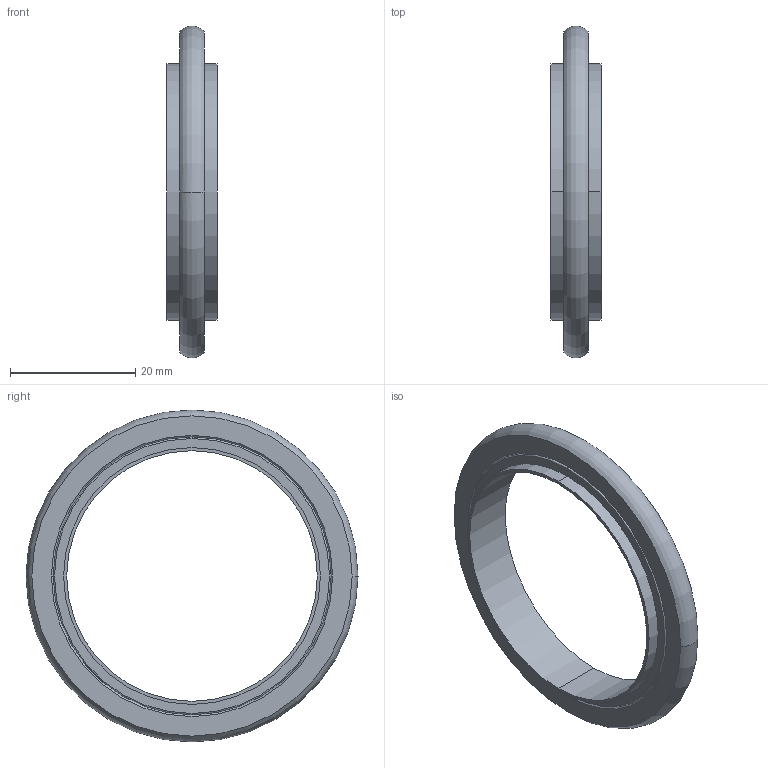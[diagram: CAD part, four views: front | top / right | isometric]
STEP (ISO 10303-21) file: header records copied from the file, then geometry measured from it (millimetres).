
FILE_DESCRIPTION((''),'2;1');
FILE_NAME('88348_SW0001','2015-09-29T',('L0100062'),('Copyright by Leybold GmbH'),'PRO/ENGINEER BY PARAMETRIC TECHNOLOGY CORPORATION, 2015030','PRO/ENGINEER BY PARAMETRIC TECHNOLOGY CORPORATION, 2015030','');
FILE_SCHEMA(('AUTOMOTIVE_DESIGN { 1 0 10303 214 1 1 1 1 }'));
Length unit declared in the file: millimetre
Products named in the file (1): 88348_SW0001
Bounding box: 8 x 53 x 53 mm (x, y, z)
Volume: 3768.4 mm3; surface area: 3984.1 mm2
Topology: 1 solids, 1 shells, 22 faces, 48 edges, 32 vertices
Faces by surface type: plane 6, cylinder 6, revolution 6, torus 4
Entity records: 1035 total; most frequent: CARTESIAN_POINT 178, DIRECTION 116, ORIENTED_EDGE 96, AXIS2_PLACEMENT_3D 52, COLOUR_RGB 48, EDGE_CURVE 48, FILL_AREA_STYLE_COLOUR 36, FILL_AREA_STYLE 36
